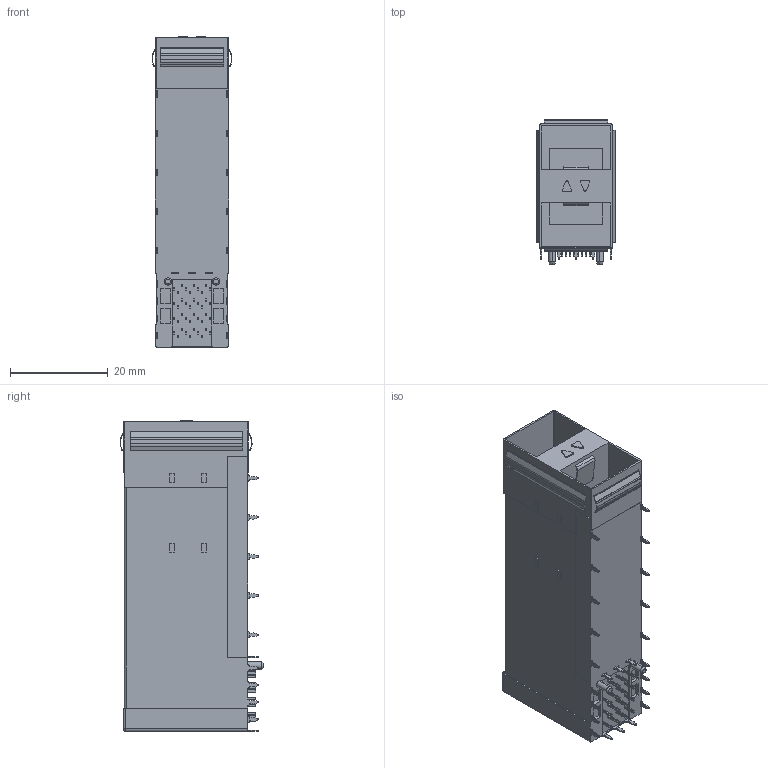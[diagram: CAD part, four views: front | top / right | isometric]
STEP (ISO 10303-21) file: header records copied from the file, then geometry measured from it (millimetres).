
FILE_DESCRIPTION (( 'STEP AP214' ), '1' );
FILE_NAME ('SFP28 2X1 内灯(上下) 3D.STEP', '2025-06-12T09:03:29', ( '桑三博客' ), ( 'Www.SangSan.Cn' ), 'SwSTEP 2.0', 'SolidWorks 2018', '' );
FILE_SCHEMA (( 'AUTOMOTIVE_DESIGN' ));
Length unit declared in the file: millimetre
Products named in the file (1): SFP28 2X1 囀腑(奻狟)  3D
Bounding box: 16.31 x 29.38 x 63.5 mm (x, y, z)
Volume: 12164.8 mm3; surface area: 11388.8 mm2
Topology: 1 solids, 1 shells, 956 faces, 2731 edges, 1852 vertices
Faces by surface type: plane 631, cylinder 319, cone 4, sphere 2
Entity records: 31305 total; most frequent: CARTESIAN_POINT 5538, ORIENTED_EDGE 5458, DIRECTION 5289, EDGE_CURVE 2729, LINE 2083, VECTOR 2083, VERTEX_POINT 1852, AXIS2_PLACEMENT_3D 1603
